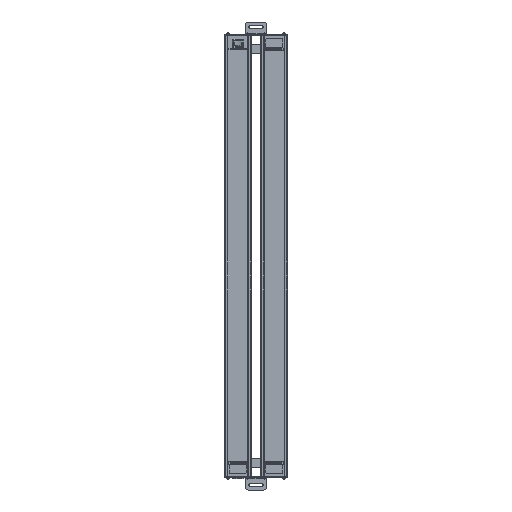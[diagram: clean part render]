
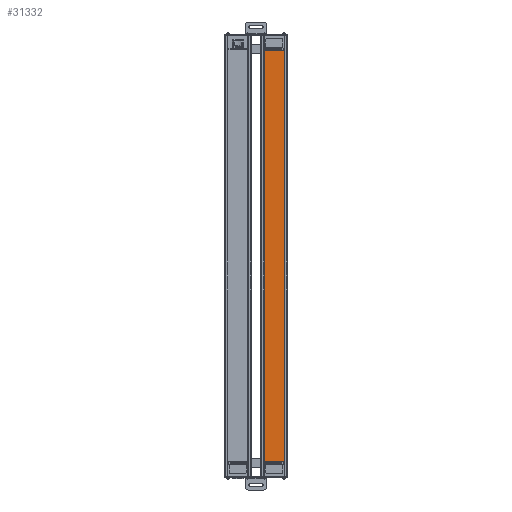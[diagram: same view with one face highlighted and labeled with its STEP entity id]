
A CAD part, front view. The second image highlights one B-rep face of the part: STEP entity #31332.
In plain terms, the highlighted planar face has unit normal (0, -1, 0).
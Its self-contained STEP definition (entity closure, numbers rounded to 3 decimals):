
#5739 = ORIENTED_EDGE ( 'NONE', *, *, #33917, .F. ) ;
#6777 = VERTEX_POINT ( 'NONE', #21985 ) ;
#7598 = CARTESIAN_POINT ( 'NONE',  ( -398., 0., -21. ) ) ;
#7921 = EDGE_CURVE ( 'NONE', #28338, #31212, #33331, .T. ) ;
#10659 = VECTOR ( 'NONE', #12280, 1000. ) ;
#12280 = DIRECTION ( 'NONE',  ( 0., 0., -1. ) ) ;
#12529 = VECTOR ( 'NONE', #35823, 1000. ) ;
#14160 = CARTESIAN_POINT ( 'NONE',  ( -398., 0., 21. ) ) ;
#15728 = DIRECTION ( 'NONE',  ( -1., 0., 0. ) ) ;
#17108 = VECTOR ( 'NONE', #15728, 1000. ) ;
#17515 = DIRECTION ( 'NONE',  ( 0., -1., 0. ) ) ;
#17913 = FACE_OUTER_BOUND ( 'NONE', #24278, .T. ) ;
#18691 = ORIENTED_EDGE ( 'NONE', *, *, #23192, .F. ) ;
#20947 = PLANE ( 'NONE',  #28531 ) ;
#21047 = LINE ( 'NONE', #14160, #12529 ) ;
#21985 = CARTESIAN_POINT ( 'NONE',  ( 398., 0., 21. ) ) ;
#23192 = EDGE_CURVE ( 'NONE', #31212, #28220, #32419, .T. ) ;
#24278 = EDGE_LOOP ( 'NONE', ( #5739, #39617, #18691, #36760 ) ) ;
#25940 = DIRECTION ( 'NONE',  ( 0., 0., 1. ) ) ;
#27852 = CARTESIAN_POINT ( 'NONE',  ( 398., 0., 21. ) ) ;
#28220 = VERTEX_POINT ( 'NONE', #38276 ) ;
#28338 = VERTEX_POINT ( 'NONE', #38640 ) ;
#28446 = LINE ( 'NONE', #27852, #10659 ) ;
#28531 = AXIS2_PLACEMENT_3D ( 'NONE', #35914, #17515, #39547 ) ;
#28965 = CARTESIAN_POINT ( 'NONE',  ( -398., 0., 21. ) ) ;
#30879 = CARTESIAN_POINT ( 'NONE',  ( -398., 0., -21. ) ) ;
#31212 = VERTEX_POINT ( 'NONE', #7598 ) ;
#31332 = ADVANCED_FACE ( 'NONE', ( #17913 ), #20947, .T. ) ;
#32419 = LINE ( 'NONE', #28965, #34407 ) ;
#33331 = LINE ( 'NONE', #30879, #17108 ) ;
#33917 = EDGE_CURVE ( 'NONE', #6777, #28338, #28446, .T. ) ;
#34407 = VECTOR ( 'NONE', #25940, 1000. ) ;
#35823 = DIRECTION ( 'NONE',  ( 1., 0., 0. ) ) ;
#35914 = CARTESIAN_POINT ( 'NONE',  ( 398., 0., -21. ) ) ;
#36760 = ORIENTED_EDGE ( 'NONE', *, *, #7921, .F. ) ;
#38276 = CARTESIAN_POINT ( 'NONE',  ( -398., 0., 21. ) ) ;
#38640 = CARTESIAN_POINT ( 'NONE',  ( 398., 0., -21. ) ) ;
#39547 = DIRECTION ( 'NONE',  ( 0., 0., -1. ) ) ;
#39617 = ORIENTED_EDGE ( 'NONE', *, *, #39935, .F. ) ;
#39935 = EDGE_CURVE ( 'NONE', #28220, #6777, #21047, .T. ) ;
